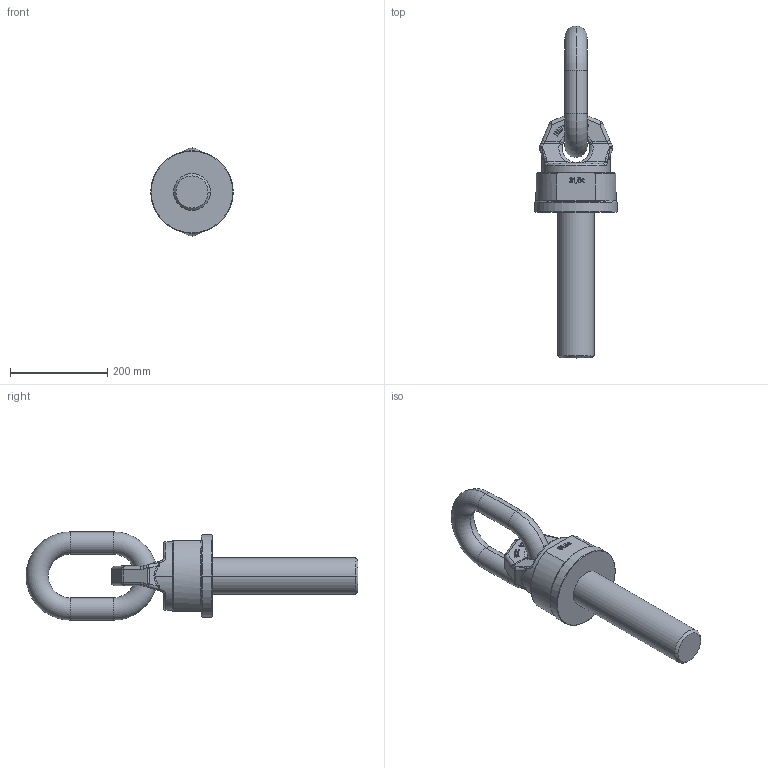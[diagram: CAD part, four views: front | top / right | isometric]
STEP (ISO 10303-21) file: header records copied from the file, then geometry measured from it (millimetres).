
FILE_DESCRIPTION((''),'2;1');
FILE_NAME('001-M33923-P-10_ASM','2019-06-27T',('anja.joas'),(''),'PRO/ENGINEER BY PARAMETRIC TECHNOLOGY CORPORATION, 2011490','PRO/ENGINEER BY PARAMETRIC TECHNOLOGY CORPORATION, 2011490','');
FILE_SCHEMA(('CONFIG_CONTROL_DESIGN'));
Length unit declared in the file: millimetre
Products named in the file (4): 001-M33405-P-10_AF0; 001-M31356-P-10; 001-M31356-P-04; 001-M33923-P-10_ASM
Assembly tree (3 placements, depth 2):
  001-M33923-P-10_ASM
    001-M33405-P-10_AF0
    001-M31356-P-10
    001-M31356-P-04
Bounding box: 170 x 684 x 182 mm (x, y, z)
Volume: 4831944.9 mm3; surface area: 315187.8 mm2
Topology: 3 solids, 3 shells, 499 faces, 1328 edges, 852 vertices
Faces by surface type: plane 364, bspline 62, cylinder 55, torus 10, cone 8
Entity records: 18460 total; most frequent: CARTESIAN_POINT 6374, ORIENTED_EDGE 2656, DIRECTION 2214, EDGE_CURVE 1328, VECTOR 1058, LINE 1058, VERTEX_POINT 852, AXIS2_PLACEMENT_3D 578
